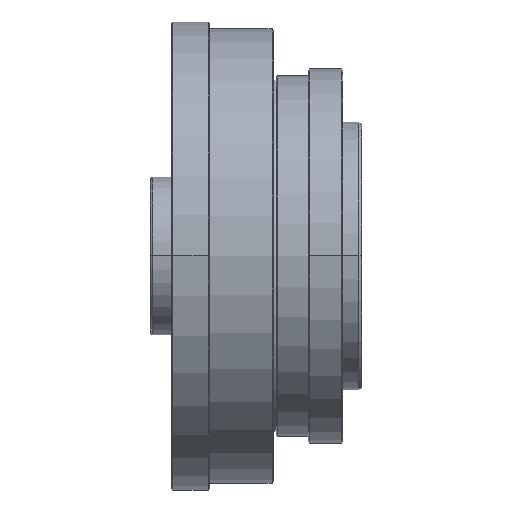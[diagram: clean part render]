
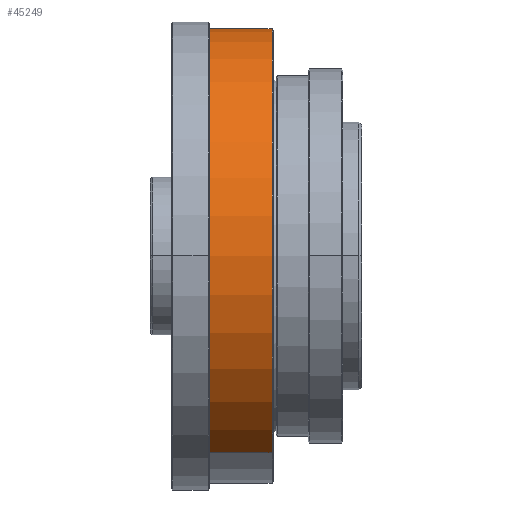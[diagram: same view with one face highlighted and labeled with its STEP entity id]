
A CAD part, top view. The second image highlights one B-rep face of the part: STEP entity #45249.
In plain terms, the highlighted cylindrical face has radius 85 mm (diameter 170 mm), a partial arc.
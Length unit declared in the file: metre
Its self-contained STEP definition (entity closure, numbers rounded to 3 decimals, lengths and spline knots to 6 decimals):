
#1229 = EDGE_CURVE ( 'NONE', #24919, #31773, #63939, .T. ) ;
#2926 = ORIENTED_EDGE ( 'NONE', *, *, #1229, .F. ) ;
#3885 = EDGE_CURVE ( 'NONE', #24919, #8411, #75784, .T. ) ;
#4790 = DIRECTION ( 'NONE',  ( -1., 0., 0. ) ) ;
#4891 = CARTESIAN_POINT ( 'NONE',  ( 0.122638, -0.073612, 0.0425 ) ) ;
#5738 = CARTESIAN_POINT ( 'NONE',  ( 0.071672, 0., 0. ) ) ;
#8411 = VERTEX_POINT ( 'NONE', #79799 ) ;
#12383 = DIRECTION ( 'NONE',  ( 1., 0., 0. ) ) ;
#16882 = ORIENTED_EDGE ( 'NONE', *, *, #18338, .T. ) ;
#17629 = VECTOR ( 'NONE', #29855, 1. ) ;
#18338 = EDGE_CURVE ( 'NONE', #8411, #84340, #65625, .T. ) ;
#18633 = DIRECTION ( 'NONE',  ( 1., 0., 0. ) ) ;
#24919 = VERTEX_POINT ( 'NONE', #60861 ) ;
#25787 = CARTESIAN_POINT ( 'NONE',  ( 0.099672, 0.073612, -0.0425 ) ) ;
#29855 = DIRECTION ( 'NONE',  ( 1., 0., 0. ) ) ;
#31773 = VERTEX_POINT ( 'NONE', #25787 ) ;
#35864 = CIRCLE ( 'NONE', #42925, 0.085 ) ;
#39125 = CARTESIAN_POINT ( 'NONE',  ( 0.099672, -0.073612, 0.0425 ) ) ;
#39433 = DIRECTION ( 'NONE',  ( 0., 0.866, -0.5 ) ) ;
#40291 = AXIS2_PLACEMENT_3D ( 'NONE', #57762, #77737, #51126 ) ;
#40621 = ORIENTED_EDGE ( 'NONE', *, *, #57395, .T. ) ;
#41615 = CARTESIAN_POINT ( 'NONE',  ( 0.099672, 0., 0. ) ) ;
#42925 = AXIS2_PLACEMENT_3D ( 'NONE', #41615, #4790, #44251 ) ;
#44251 = DIRECTION ( 'NONE',  ( 0., 0.866, -0.5 ) ) ;
#44636 = AXIS2_PLACEMENT_3D ( 'NONE', #5738, #12383, #39433 ) ;
#45249 = ADVANCED_FACE ( 'NONE', ( #71056 ), #50221, .T. ) ;
#50221 = CYLINDRICAL_SURFACE ( 'NONE', #40291, 0.085 ) ;
#51126 = DIRECTION ( 'NONE',  ( 0., 0.866, -0.5 ) ) ;
#54228 = ORIENTED_EDGE ( 'NONE', *, *, #3885, .T. ) ;
#57395 = EDGE_CURVE ( 'NONE', #84340, #31773, #35864, .T. ) ;
#57762 = CARTESIAN_POINT ( 'NONE',  ( 0.122638, 0., 0. ) ) ;
#60861 = CARTESIAN_POINT ( 'NONE',  ( 0.071672, 0.073612, -0.0425 ) ) ;
#61929 = VECTOR ( 'NONE', #18633, 1. ) ;
#63939 = LINE ( 'NONE', #70601, #17629 ) ;
#65625 = LINE ( 'NONE', #4891, #61929 ) ;
#70601 = CARTESIAN_POINT ( 'NONE',  ( 0.122638, 0.073612, -0.0425 ) ) ;
#71056 = FACE_OUTER_BOUND ( 'NONE', #84466, .T. ) ;
#75784 = CIRCLE ( 'NONE', #44636, 0.085 ) ;
#77737 = DIRECTION ( 'NONE',  ( 1., 0., 0. ) ) ;
#79799 = CARTESIAN_POINT ( 'NONE',  ( 0.071672, -0.073612, 0.0425 ) ) ;
#84340 = VERTEX_POINT ( 'NONE', #39125 ) ;
#84466 = EDGE_LOOP ( 'NONE', ( #54228, #16882, #40621, #2926 ) ) ;
